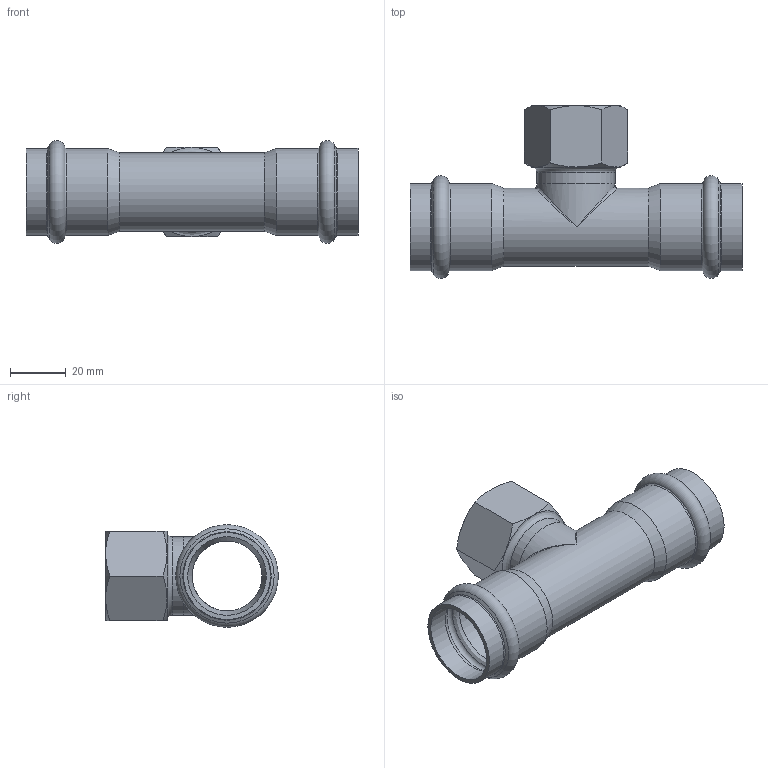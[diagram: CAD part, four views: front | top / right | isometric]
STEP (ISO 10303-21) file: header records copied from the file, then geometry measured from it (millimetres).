
FILE_DESCRIPTION((''),'2;1');
FILE_NAME('G:\Nirosan-Schmiedefeld\Technics\CAD\Bauteile VA\028\69130G283428(3).stp','2011-10-10T15:32:42',('herberg'),(''),'Autodesk Inventor 2009','Autodesk Inventor 2009','');
FILE_SCHEMA(('AUTOMOTIVE_DESIGN { 1 0 10303 214 1 1 1 1 }'));
Length unit declared in the file: millimetre
Products named in the file (3): 69130G283428(2); LM_6913028(1); IG2834(1)
Assembly tree (2 placements, depth 2):
  69130G283428(2)
    LM_6913028(1)
    IG2834(1)
Bounding box: 119 x 61.89 x 36.79 mm (x, y, z)
Volume: 26754.9 mm3; surface area: 28408.4 mm2
Topology: 2 solids, 2 shells, 65 faces, 147 edges, 79 vertices
Faces by surface type: cone 21, bspline 16, cylinder 13, plane 11, torus 4
Full cylindrical faces by diameter (mm): 25 x2, 28 x3, 28.2 x4, 31.2 x4
Entity records: 2561 total; most frequent: CARTESIAN_POINT 1375, DIRECTION 236, ORIENTED_EDGE 182, AXIS2_PLACEMENT_3D 115, EDGE_LOOP 110, EDGE_CURVE 91, VERTEX_POINT 69, FACE_OUTER_BOUND 65
